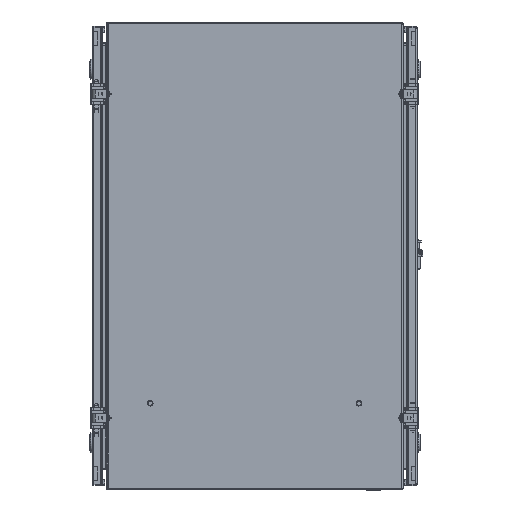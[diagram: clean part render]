
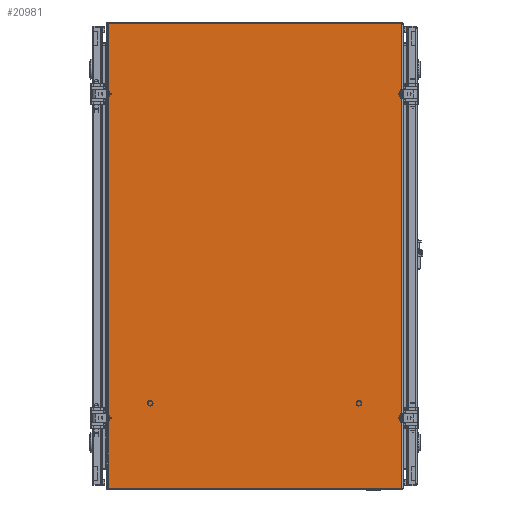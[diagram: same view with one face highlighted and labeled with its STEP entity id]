
A CAD part, left-side view. The second image highlights one B-rep face of the part: STEP entity #20981.
In plain terms, the highlighted planar face has unit normal (-1, 0, 0) as drawn and (1, 0, 0) by its records, which use the part's own axes.
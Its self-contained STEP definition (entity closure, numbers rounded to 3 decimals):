
#3230=LINE('',#40143,#5143);
#3237=LINE('',#40163,#5150);
#3238=LINE('',#40165,#5151);
#3239=LINE('',#40167,#5152);
#5143=VECTOR('',#28294,1000.);
#5150=VECTOR('',#28311,1000.);
#5151=VECTOR('',#28312,1000.);
#5152=VECTOR('',#28313,1000.);
#10296=ORIENTED_EDGE('',*,*,#13533,.T.);
#10297=ORIENTED_EDGE('',*,*,#13524,.T.);
#10298=ORIENTED_EDGE('',*,*,#13534,.T.);
#10299=ORIENTED_EDGE('',*,*,#13535,.F.);
#13524=EDGE_CURVE('',#15513,#15515,#3230,.T.);
#13533=EDGE_CURVE('',#15524,#15513,#3237,.T.);
#13534=EDGE_CURVE('',#15515,#15525,#3238,.T.);
#13535=EDGE_CURVE('',#15524,#15525,#3239,.T.);
#15513=VERTEX_POINT('',#40138);
#15515=VERTEX_POINT('',#40142);
#15524=VERTEX_POINT('',#40164);
#15525=VERTEX_POINT('',#40166);
#17362=EDGE_LOOP('',(#10296,#10297,#10298,#10299));
#18906=FACE_BOUND('',#17362,.T.);
#19816=PLANE('',#23260);
#20981=ADVANCED_FACE('',(#18906),#19816,.T.);
#23260=AXIS2_PLACEMENT_3D('',#40162,#28309,#28310);
#28294=DIRECTION('',(0.,-1.,0.));
#28309=DIRECTION('',(1.,0.,0.));
#28310=DIRECTION('',(0.,0.,-1.));
#28311=DIRECTION('',(0.,0.,1.));
#28312=DIRECTION('',(0.,0.,-1.));
#28313=DIRECTION('',(0.,-1.,0.));
#40138=CARTESIAN_POINT('',(761.086,206.807,326.542));
#40142=CARTESIAN_POINT('',(761.086,-206.807,326.542));
#40143=CARTESIAN_POINT('',(761.086,209.55,326.542));
#40162=CARTESIAN_POINT('',(761.086,209.55,-329.286));
#40163=CARTESIAN_POINT('',(761.086,206.807,-329.286));
#40164=CARTESIAN_POINT('',(761.086,206.807,-329.286));
#40165=CARTESIAN_POINT('',(761.086,-206.807,326.542));
#40166=CARTESIAN_POINT('',(761.086,-206.807,-329.286));
#40167=CARTESIAN_POINT('',(761.086,209.55,-329.286));
